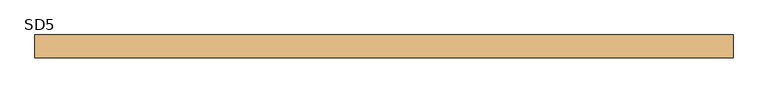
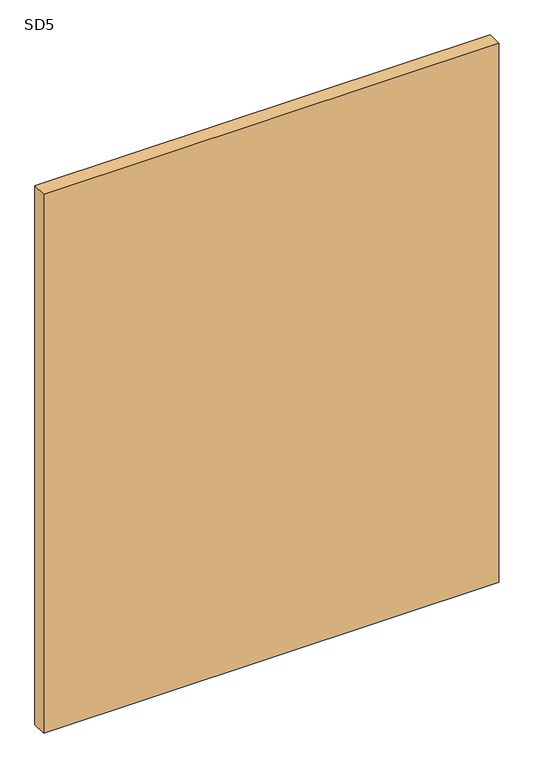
"""IFC4 building model written with IfcOpenShell, lengths in millimetres: door geometry, 営_随閉扉 B階段 1F : SD5."""

from ifc_helpers import new_model, si_unit, origin, origin_with_axes, place, context, project, spatial, polyline, outline, extrude, source, transform, mapped, element, save


def sd5_d24b2fea(model_context):
    return source(origin(), model_context, "Body", "SweptSolid", [
        extrude(outline(polyline([(915.0, 200.0), (915.0, 140.0), (-915.0, 140.0), (-915.0, 200.0), (915.0, 200.0)])), origin_with_axes(), (0.0, 0.0, 1.0), 2290.0),
    ])


if __name__ == "__main__":
    model = new_model("IFC4")
    model_context = context("Model", 3, world=origin())
    ifc_project = project(units=[si_unit("LENGTHUNIT", "METRE", prefix="MILLI")], contexts=[model_context])
    site = spatial("IfcSite", under=ifc_project)
    building = spatial("IfcBuilding", under=site)
    placement = place(None, origin())
    sd5_shape = sd5_d24b2fea(model_context)
    element("IfcDoor", 1, ObjectType="営_随閉扉 B階段 1F : SD5", at=placement, inside=building, context=model_context, shape_type="MappedRepresentation", body=[
        mapped(sd5_shape, transform((0.0, 0.0, 0.0), x_axis=(1.0, 0.0, 0.0), y_axis=(0.0, 1.0, 0.0), z_axis=(0.0, 0.0, 1.0))),
    ])
    save(model, "model.ifc")
